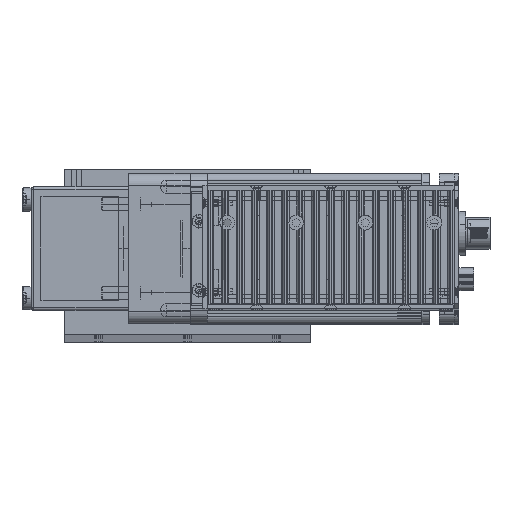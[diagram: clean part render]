
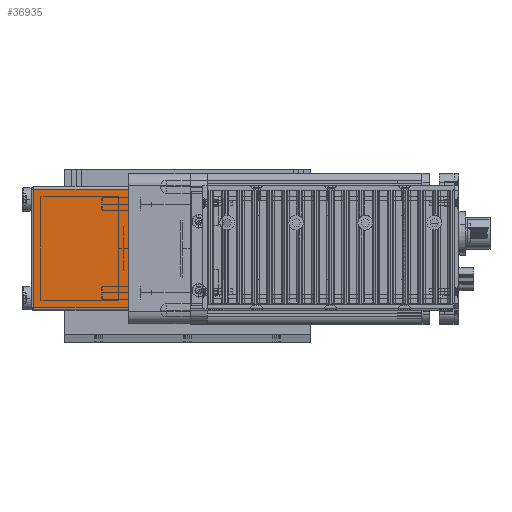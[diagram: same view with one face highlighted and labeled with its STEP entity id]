
A CAD part, top view. The second image highlights one B-rep face of the part: STEP entity #36935.
In plain terms, the highlighted planar face has unit normal (0, 0, 1) as drawn and (1, 0, 0) by its records, which use the part's own axes.
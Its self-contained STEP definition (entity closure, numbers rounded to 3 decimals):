
#11465 = CARTESIAN_POINT ( 'NONE',  ( 62., 24., 0. ) ) ;
#11635 = CARTESIAN_POINT ( 'NONE',  ( 62., -24., 38.5 ) ) ;
#11641 = DIRECTION ( 'NONE',  ( 0., 0., -1. ) ) ;
#11642 = VECTOR ( 'NONE', #11641, 1000. ) ;
#11645 = CARTESIAN_POINT ( 'NONE',  ( 62., 24., 39.5 ) ) ;
#11659 = LINE ( 'NONE', #11645, #11642 ) ;
#11683 = CARTESIAN_POINT ( 'NONE',  ( 62., 24., 38.5 ) ) ;
#12062 = DIRECTION ( 'NONE',  ( 0., 0., 1. ) ) ;
#12063 = VECTOR ( 'NONE', #12062, 1000. ) ;
#12064 = CARTESIAN_POINT ( 'NONE',  ( 62., -24., 39.5 ) ) ;
#12065 = LINE ( 'NONE', #12064, #12063 ) ;
#12200 = CARTESIAN_POINT ( 'NONE',  ( 62., -24., 0. ) ) ;
#15673 = VECTOR ( 'NONE', #15728, 1000. ) ;
#15674 = CARTESIAN_POINT ( 'NONE',  ( 62., -25., 0. ) ) ;
#15675 = LINE ( 'NONE', #15674, #15673 ) ;
#15681 = AXIS2_PLACEMENT_3D ( 'NONE', #15691, #15721, #15720 ) ;
#15682 = FACE_OUTER_BOUND ( 'NONE', #32194, .T. ) ;
#15691 = CARTESIAN_POINT ( 'NONE',  ( 62., 25., 39.5 ) ) ;
#15692 = DIRECTION ( 'NONE',  ( 0., 1., 0. ) ) ;
#15693 = VECTOR ( 'NONE', #15692, 1000. ) ;
#15697 = CARTESIAN_POINT ( 'NONE',  ( 62., -25., 38.5 ) ) ;
#15698 = LINE ( 'NONE', #15697, #15693 ) ;
#15720 = DIRECTION ( 'NONE',  ( 0., -1., 0. ) ) ;
#15721 = DIRECTION ( 'NONE',  ( -1., 0., 0. ) ) ;
#15722 = PLANE ( 'NONE',  #15681 ) ;
#15728 = DIRECTION ( 'NONE',  ( 0., 1., 0. ) ) ;
#31864 = ORIENTED_EDGE ( 'NONE', *, *, #34841, .F. ) ;
#32194 = EDGE_LOOP ( 'NONE', ( #31864, #36931, #32271, #32280 ) ) ;
#32271 = ORIENTED_EDGE ( 'NONE', *, *, #34630, .F. ) ;
#32280 = ORIENTED_EDGE ( 'NONE', *, *, #36920, .F. ) ;
#34514 = VERTEX_POINT ( 'NONE', #11465 ) ;
#34598 = VERTEX_POINT ( 'NONE', #11635 ) ;
#34630 = EDGE_CURVE ( 'NONE', #34643, #34514, #11659, .T. ) ;
#34643 = VERTEX_POINT ( 'NONE', #11683 ) ;
#34841 = EDGE_CURVE ( 'NONE', #34903, #34598, #12065, .T. ) ;
#34903 = VERTEX_POINT ( 'NONE', #12200 ) ;
#36920 = EDGE_CURVE ( 'NONE', #34598, #34643, #15698, .T. ) ;
#36930 = EDGE_CURVE ( 'NONE', #34903, #34514, #15675, .T. ) ;
#36931 = ORIENTED_EDGE ( 'NONE', *, *, #36930, .T. ) ;
#36935 = ADVANCED_FACE ( 'NONE', ( #15682 ), #15722, .F. ) ;
